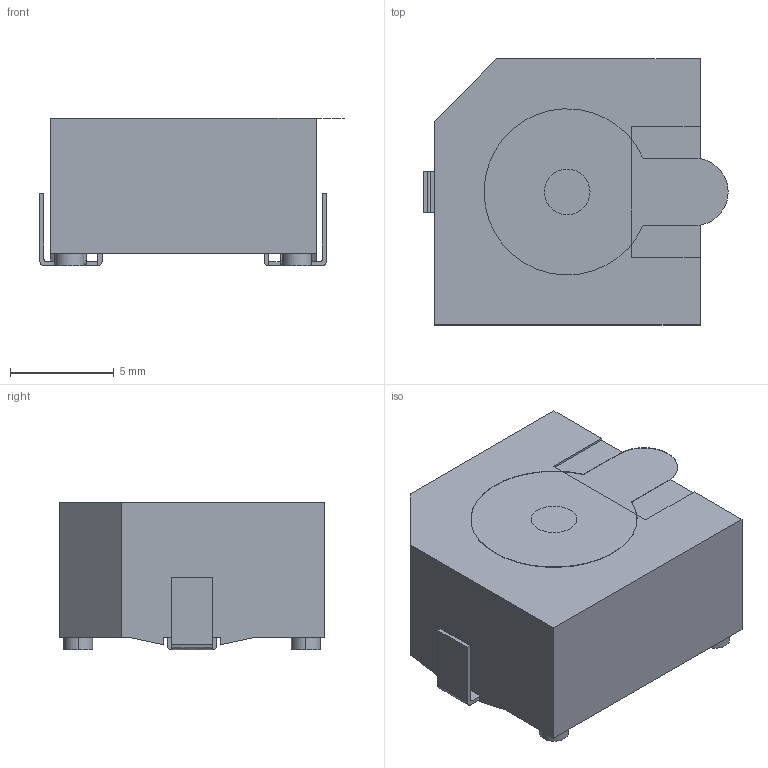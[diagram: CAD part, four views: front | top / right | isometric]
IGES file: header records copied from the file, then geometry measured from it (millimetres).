
Global section: file name: No Iges File Name specified; native system: Autodesk Inventor 2011; preprocessor: AutoDesk Inventor Iges Exporter R2011; author: Dunn; date: 20111013.165443; units: millimetre
Bounding box: 14.65 x 12.8 x 7.12 mm (x, y, z)
Volume: 711.9 mm3; surface area: 1500.1 mm2
Topology: 2 solids, 3 shells, 145 faces, 384 edges, 255 vertices
Faces by surface type: plane 86, bspline 33, cylinder 14, revolution 12
